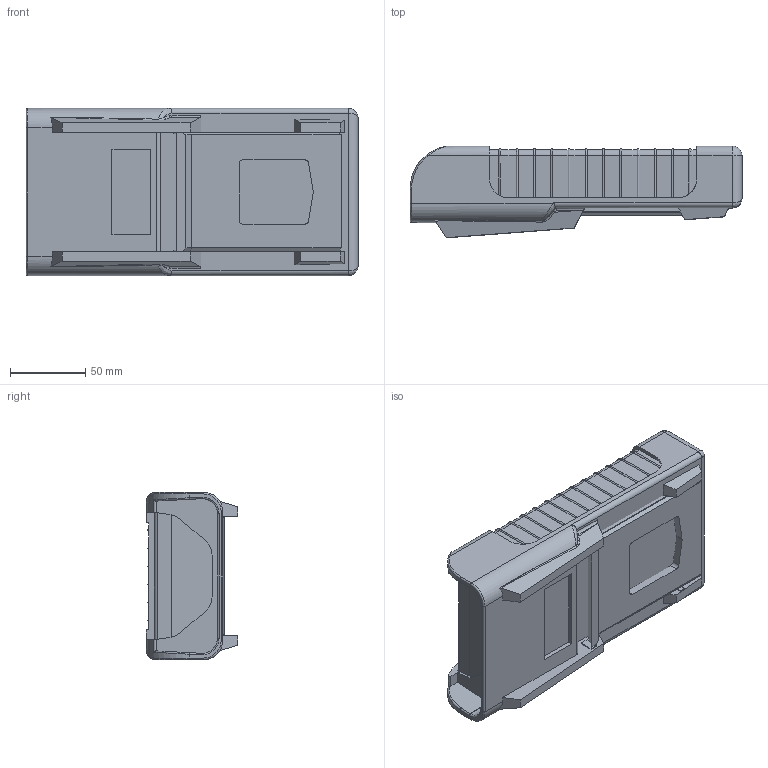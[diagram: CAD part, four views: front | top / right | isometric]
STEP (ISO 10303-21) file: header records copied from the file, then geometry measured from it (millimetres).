
FILE_DESCRIPTION (( 'STEP AP214' ), '1' );
FILE_NAME ('MBM-409.STEP', '2021-02-04T18:05:07', ( '' ), ( '' ), 'SwSTEP 2.0', 'SolidWorks 2016', '' );
FILE_SCHEMA (( 'AUTOMOTIVE_DESIGN' ));
Length unit declared in the file: inch
Products named in the file (15): ACO-03; AOC-5 assembly; BATTERY-THIN; AOC-4 assembly; MBM-409; AOC-3 assembly; ACO-4; MBM-409 top; BATTERY-THIN-2; MBM-RBT boot; MBM-RBT; MBM-bot; ACO-5; MBM Stand; MBM-door
Assembly tree (23 placements, depth 3):
  MBM-409
    MBM-bot
    MBM-door
    MBM-409 top
    AOC-3 assembly
      ACO-03
      BATTERY-THIN-2  x2
    AOC-4 assembly
      ACO-4
      BATTERY-THIN-2  x4
    AOC-5 assembly
      ACO-5
      BATTERY-THIN  x3
      BATTERY-THIN-2  x2
    MBM-RBT boot
      MBM-RBT
      MBM Stand
Bounding box: 220.65 x 60.85 x 111.12 mm (x, y, z)
Volume: 400738.2 mm3; surface area: 313739.2 mm2
Topology: 20 solids, 20 shells, 3253 faces, 8896 edges, 5752 vertices
Faces by surface type: plane 1834, cylinder 815, bspline 437, torus 84, cone 67, sphere 16
Entity records: 107864 total; most frequent: CARTESIAN_POINT 37564, ORIENTED_EDGE 15210, DIRECTION 12748, EDGE_CURVE 7605, LINE 5020, VECTOR 5020, VERTEX_POINT 4916, AXIS2_PLACEMENT_3D 3864
